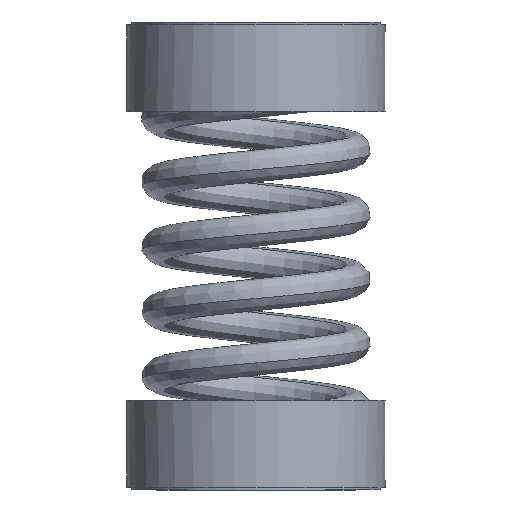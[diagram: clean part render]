
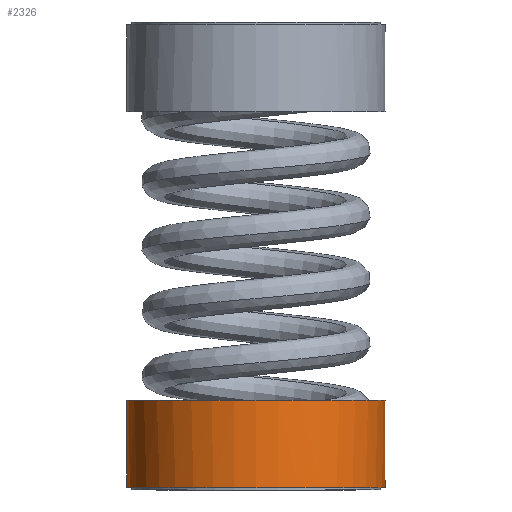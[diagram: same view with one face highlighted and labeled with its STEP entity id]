
A CAD part, left-side view. The second image highlights one B-rep face of the part: STEP entity #2326.
In plain terms, the highlighted cylindrical face has radius 41.275 mm (diameter 82.55 mm), a full revolution.
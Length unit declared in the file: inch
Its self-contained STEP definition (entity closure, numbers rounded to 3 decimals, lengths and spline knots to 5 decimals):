
#86=LINE('',#3239,#260);
#104=LINE('',#3276,#278);
#123=LINE('',#3318,#297);
#140=LINE('',#3353,#314);
#260=VECTOR('',#2651,0.09375);
#278=VECTOR('',#2671,0.09375);
#297=VECTOR('',#2698,0.09375);
#314=VECTOR('',#2717,0.09375);
#503=FACE_BOUND('',#701,.T.);
#567=FACE_OUTER_BOUND('',#700,.T.);
#700=EDGE_LOOP('',(#1677,#1678,#1679,#1680,#1681,#1682,#1683,#1684));
#701=EDGE_LOOP('',(#1685));
#814=CIRCLE('',#2434,1.625);
#816=CIRCLE('',#2439,1.625);
#818=CIRCLE('',#2442,1.625);
#821=CIRCLE('',#2446,1.625);
#851=CIRCLE('',#2506,1.625);
#916=VERTEX_POINT('',#3237);
#917=VERTEX_POINT('',#3238);
#934=VERTEX_POINT('',#3274);
#935=VERTEX_POINT('',#3275);
#952=VERTEX_POINT('',#3311);
#954=VERTEX_POINT('',#3317);
#970=VERTEX_POINT('',#3351);
#971=VERTEX_POINT('',#3352);
#989=VERTEX_POINT('',#3456);
#1140=EDGE_CURVE('',#916,#917,#86,.T.);
#1158=EDGE_CURVE('',#934,#935,#104,.T.);
#1176=EDGE_CURVE('',#917,#952,#814,.T.);
#1179=EDGE_CURVE('',#952,#954,#123,.T.);
#1196=EDGE_CURVE('',#970,#971,#140,.T.);
#1214=EDGE_CURVE('',#971,#934,#816,.T.);
#1216=EDGE_CURVE('',#954,#970,#818,.T.);
#1219=EDGE_CURVE('',#935,#916,#821,.T.);
#1249=EDGE_CURVE('',#989,#989,#851,.T.);
#1677=ORIENTED_EDGE('',*,*,#1158,.T.);
#1678=ORIENTED_EDGE('',*,*,#1219,.T.);
#1679=ORIENTED_EDGE('',*,*,#1140,.T.);
#1680=ORIENTED_EDGE('',*,*,#1176,.T.);
#1681=ORIENTED_EDGE('',*,*,#1179,.T.);
#1682=ORIENTED_EDGE('',*,*,#1216,.T.);
#1683=ORIENTED_EDGE('',*,*,#1196,.T.);
#1684=ORIENTED_EDGE('',*,*,#1214,.T.);
#1685=ORIENTED_EDGE('',*,*,#1249,.F.);
#2125=CYLINDRICAL_SURFACE('',#2505,1.625);
#2326=ADVANCED_FACE('',(#567,#503),#2125,.T.);
#2434=AXIS2_PLACEMENT_3D('',#3312,#2691,#2692);
#2439=AXIS2_PLACEMENT_3D('',#3388,#2737,#2738);
#2442=AXIS2_PLACEMENT_3D('',#3391,#2743,#2744);
#2446=AXIS2_PLACEMENT_3D('',#3395,#2751,#2752);
#2505=AXIS2_PLACEMENT_3D('',#3455,#2869,#2870);
#2506=AXIS2_PLACEMENT_3D('',#3457,#2871,#2872);
#2651=DIRECTION('',(0.,0.,1.));
#2671=DIRECTION('',(0.,0.,-1.));
#2691=DIRECTION('center_axis',(0.,0.,
1.));
#2692=DIRECTION('ref_axis',(-1.,0.,0.));
#2698=DIRECTION('',(0.,0.,-1.));
#2717=DIRECTION('',(0.,0.,1.));
#2737=DIRECTION('center_axis',(0.,0.,
1.));
#2738=DIRECTION('ref_axis',(-1.,0.,0.));
#2743=DIRECTION('center_axis',(0.,0.,
1.));
#2744=DIRECTION('ref_axis',(-1.,0.,0.));
#2751=DIRECTION('center_axis',(0.,0.,
1.));
#2752=DIRECTION('ref_axis',(-1.,0.,0.));
#2869=DIRECTION('center_axis',(0.,0.,
1.));
#2870=DIRECTION('ref_axis',(-1.,0.,0.));
#2871=DIRECTION('center_axis',(0.,0.,
1.));
#2872=DIRECTION('ref_axis',(-1.,0.,0.));
#3237=CARTESIAN_POINT('',(0.09375,1.62229,0.03125));
#3238=CARTESIAN_POINT('',(0.09375,1.62229,0.125));
#3239=CARTESIAN_POINT('',(0.09375,1.62229,0.57813));
#3274=CARTESIAN_POINT('',(0.09375,-1.62229,0.125));
#3275=CARTESIAN_POINT('',(0.09375,-1.62229,0.03125));
#3276=CARTESIAN_POINT('',(0.09375,-1.62229,0.57813));
#3311=CARTESIAN_POINT('',(-0.09375,1.62229,0.125));
#3312=CARTESIAN_POINT('Origin',(0.,0.,
0.125));
#3317=CARTESIAN_POINT('',(-0.09375,1.62229,0.03125));
#3318=CARTESIAN_POINT('',(-0.09375,1.62229,0.57813));
#3351=CARTESIAN_POINT('',(-0.09375,-1.62229,0.03125));
#3352=CARTESIAN_POINT('',(-0.09375,-1.62229,0.125));
#3353=CARTESIAN_POINT('',(-0.09375,-1.62229,0.57813));
#3388=CARTESIAN_POINT('Origin',(0.,0.,
0.125));
#3391=CARTESIAN_POINT('Origin',(0.,0.,
0.03125));
#3395=CARTESIAN_POINT('Origin',(0.,0.,
0.03125));
#3455=CARTESIAN_POINT('Origin',(0.,0.,
0.57813));
#3456=CARTESIAN_POINT('',(-1.625,0.,1.125));
#3457=CARTESIAN_POINT('Origin',(0.,0.,
1.125));
